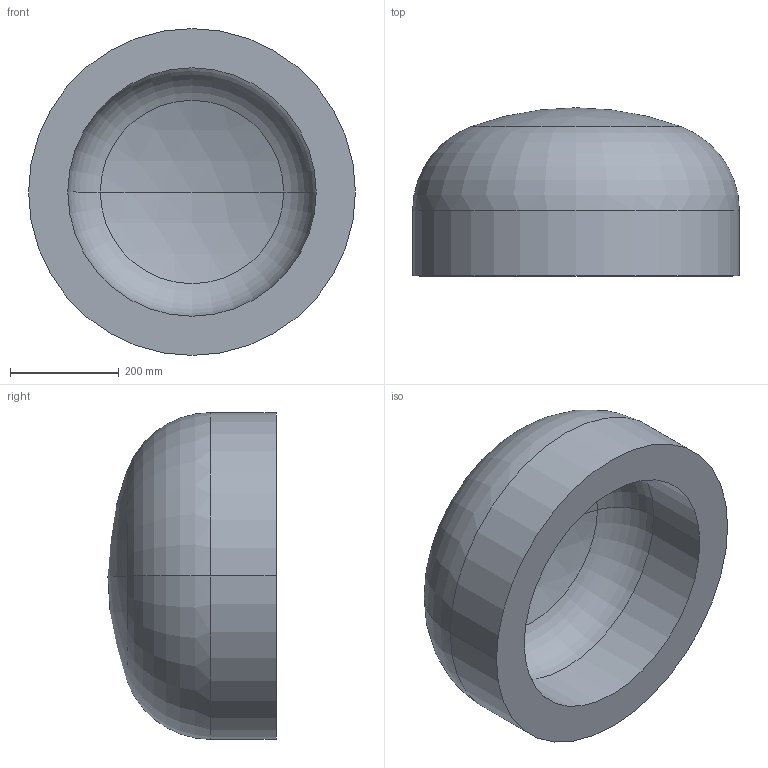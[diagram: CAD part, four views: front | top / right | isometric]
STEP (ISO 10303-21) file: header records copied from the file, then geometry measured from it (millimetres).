
FILE_DESCRIPTION (( 'STEP AP203' ), '1' );
FILE_NAME ('DIN 28013 Korbbogenform_-_Boden DIN 28013 - 600 x 120 - I - s=72.step', '2016-07-01T08:02:45', ( '' ), ( '' ), 'SwSTEP 2.0', 'SolidWorks 2013', '' );
FILE_SCHEMA (( 'CONFIG_CONTROL_DESIGN' ));
Length unit declared in the file: millimetre
Products named in the file (1): DIN 28013 Korbbogenform_-_Boden DIN 28013 - 600 x 120 - I - s=72
Bounding box: 600 x 308.62 x 600 mm (x, y, z)
Volume: 38660686 mm3; surface area: 1204196 mm2
Topology: 1 solids, 1 shells, 13 faces, 24 edges, 14 vertices
Faces by surface type: torus 4, cylinder 4, sphere 4, plane 1
Entity records: 407 total; most frequent: DIRECTION 72, CARTESIAN_POINT 52, ORIENTED_EDGE 48, AXIS2_PLACEMENT_3D 34, EDGE_CURVE 24, CIRCLE 20, EDGE_LOOP 14, VERTEX_POINT 14
